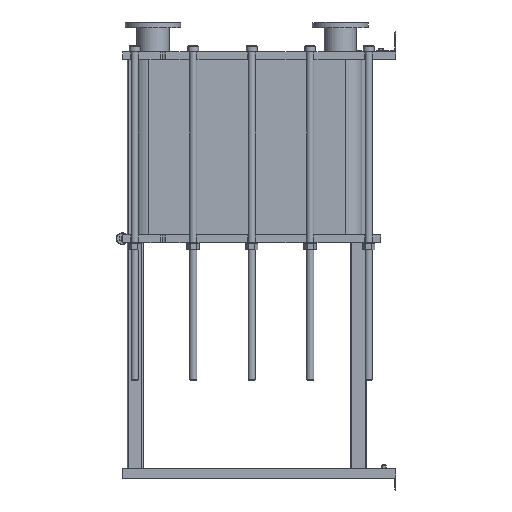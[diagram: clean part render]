
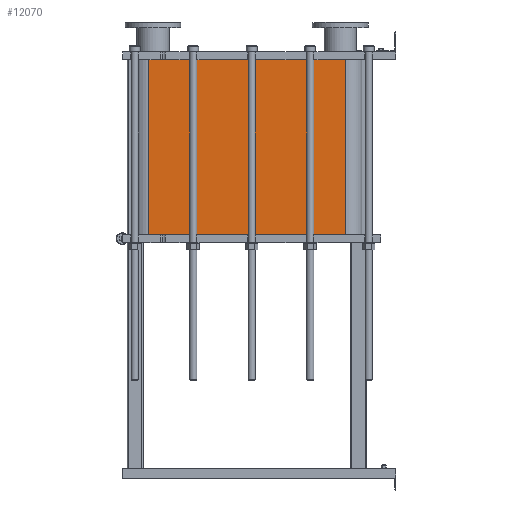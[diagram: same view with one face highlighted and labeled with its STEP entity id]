
A CAD part, left-side view. The second image highlights one B-rep face of the part: STEP entity #12070.
In plain terms, the highlighted planar face has unit normal (-1, 0, 0).
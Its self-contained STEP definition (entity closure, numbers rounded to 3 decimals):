
#1064=LINE('',#21140,#2164);
#1065=LINE('',#21144,#2165);
#1066=LINE('',#21146,#2166);
#1067=LINE('',#21147,#2167);
#2164=VECTOR('',#15790,10.);
#2165=VECTOR('',#15795,10.);
#2166=VECTOR('',#15796,10.);
#2167=VECTOR('',#15797,10.);
#3304=FACE_OUTER_BOUND('',#4091,.T.);
#4091=EDGE_LOOP('',(#9793,#9794,#9795,#9796));
#5677=VERTEX_POINT('',#21137);
#5678=VERTEX_POINT('',#21139);
#5679=VERTEX_POINT('',#21143);
#5680=VERTEX_POINT('',#21145);
#7118=EDGE_CURVE('',#5678,#5677,#1064,.T.);
#7120=EDGE_CURVE('',#5677,#5679,#1065,.T.);
#7121=EDGE_CURVE('',#5680,#5679,#1066,.T.);
#7122=EDGE_CURVE('',#5680,#5678,#1067,.T.);
#9793=ORIENTED_EDGE('',*,*,#7120,.T.);
#9794=ORIENTED_EDGE('',*,*,#7121,.F.);
#9795=ORIENTED_EDGE('',*,*,#7122,.T.);
#9796=ORIENTED_EDGE('',*,*,#7118,.T.);
#11441=PLANE('',#13191);
#12070=ADVANCED_FACE('',(#3304),#11441,.T.);
#13191=AXIS2_PLACEMENT_3D('',#21142,#15793,#15794);
#15790=DIRECTION('',(0.,0.,-1.));
#15793=DIRECTION('center_axis',(-1.,0.,0.));
#15794=DIRECTION('ref_axis',(0.,1.,0.));
#15795=DIRECTION('',(0.,-1.,0.));
#15796=DIRECTION('',(0.,0.,-1.));
#15797=DIRECTION('',(0.,1.,0.));
#21137=CARTESIAN_POINT('',(-248.152,1243.818,-879.75));
#21139=CARTESIAN_POINT('',(-248.152,1243.818,0.));
#21140=CARTESIAN_POINT('',(-248.152,1243.818,0.));
#21142=CARTESIAN_POINT('Origin',(-248.152,251.818,0.));
#21143=CARTESIAN_POINT('',(-248.152,251.818,-879.75));
#21144=CARTESIAN_POINT('',(-248.152,499.818,-879.75));
#21145=CARTESIAN_POINT('',(-248.152,251.818,0.));
#21146=CARTESIAN_POINT('',(-248.152,251.818,0.));
#21147=CARTESIAN_POINT('',(-248.152,251.818,0.));
